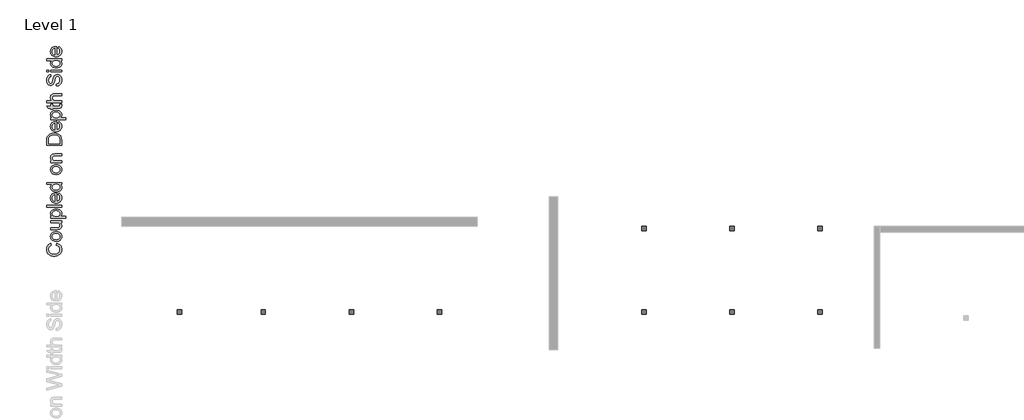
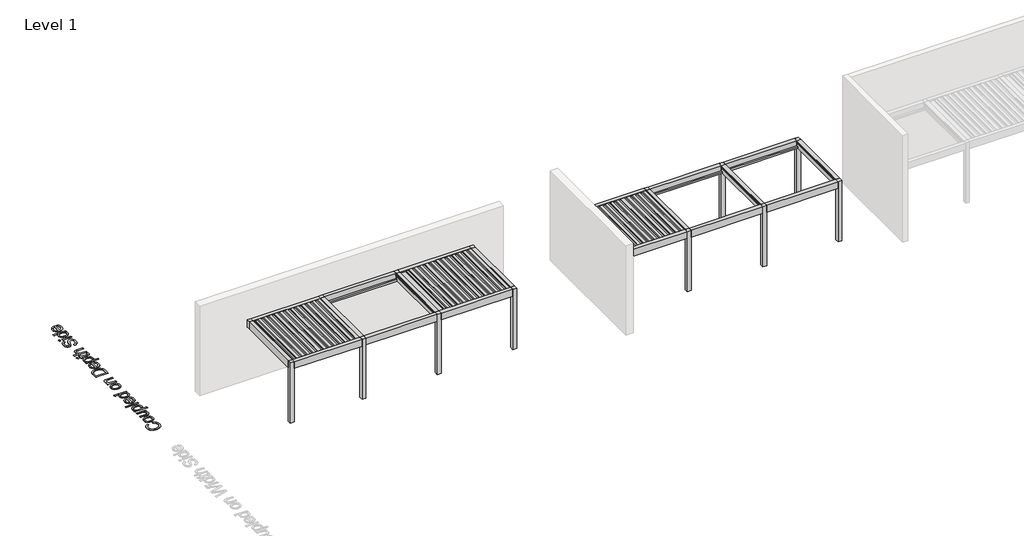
# One storey, part 63 of 80: 3 proxies.
"""IFC4 building model written with IfcOpenShell, lengths in millimetres."""

from ifc_helpers import new_model, si_unit, origin, origin_with_axes, place, context, project, spatial, polyline, outline, extrude, transform, mapped, element, save
from components import generic_models_b577dba9, generic_models_32af56f3

model = new_model("IFC4")

# Units and contexts
model_context = context("Model", 3, world=origin())
ifc_project = project(units=[si_unit("LENGTHUNIT", "METRE", prefix="MILLI")], contexts=[model_context])

# Site, building, storey
site = spatial("IfcSite", under=ifc_project)
building = spatial("IfcBuilding", under=site)
storey = spatial("IfcBuildingStorey", under=building, Name="Level 1", Elevation=0.0)

# Proxies
placement = place(None, origin())
generic_models_shape = generic_models_b577dba9(model_context)
element("IfcBuildingElementProxy", 1, Name="Renson_Amani_Patio_Cover : Renson_Amani_Patio_Cover", ObjectType="Renson_Amani_Patio_Cover : Renson_Amani_Patio_Cover", at=placement, inside=storey, context=model_context, shape_type="MappedRepresentation", body=[
    mapped(generic_models_shape, transform((177753.165057, 51509.4960358, 0.0), x_axis=(1.0, 0.0, 0.0), y_axis=(0.0, 1.0, 0.0), z_axis=(0.0, 0.0, 1.0))),
])
generic_models_2_shape = generic_models_32af56f3(model_context)
element("IfcBuildingElementProxy", 2, Name="Renson_Amani_Patio_Cover : Renson_Amani_Patio_Cover", ObjectType="Renson_Amani_Patio_Cover : Renson_Amani_Patio_Cover", at=placement, inside=storey, context=model_context, shape_type="MappedRepresentation", body=[
    mapped(generic_models_2_shape, transform((190710.3328818, 51509.4960358, 0.0), x_axis=(1.0, 0.0, 0.0), y_axis=(0.0, 1.0, 0.0), z_axis=(0.0, 0.0, 1.0))),
])
element("IfcBuildingElementProxy", 3, Name="500mm Arial", ObjectType="500mm Arial", at=placement, inside=storey, context=model_context, shape_type="SweptSolid", body=[
    extrude(outline(polyline([(172134.4472638, 52366.9601072), (172150.6340716, 52429.7453011), (172189.6793805, 52417.3216195), (172223.7966034, 52400.7745939), (172252.9857405, 52380.1042243), (172277.2467916, 52355.3105107), (172296.3191738, 52326.9529402), (172309.942304, 52295.5910002), (172318.116182, 52261.2246904), (172320.8408081, 52223.8540111), (172318.779136, 52185.5674589), (172312.59412, 52151.0287045), (172302.2857599, 52120.2377479), (172287.8540558, 52093.1945891), (172269.5136055, 52069.5275141), (172247.4790069, 52048.8648087), (172221.7502598, 52031.206473), (172192.3273644, 52016.5525068), (172160.4825792, 52005.0446982), (172127.4881628, 51996.8248348), (172093.3441151, 51991.8929168), (172058.0504362, 51990.2489442), (172020.1815833, 51992.1075147), (171984.8112623, 51997.6832261), (171951.9394732, 52006.9760786), (171921.566216, 52019.9860721), (171894.1934963, 52036.4219667), (171870.3233197, 52055.9925224), (171849.9556863, 52078.6977393), (171833.0905961, 52104.5376173), (171819.8660048, 52132.6346047), (171810.4198682, 52162.1111496), (171804.7521862, 52192.9672519), (171802.8629589, 52225.2029117), (171805.3078413, 52261.1135594), (171812.6424886, 52294.0428301), (171824.8669007, 52323.9907238), (171841.9810777, 52350.9572404), (171863.5328312, 52374.497856), (171889.0699731, 52394.1680465), (171918.5925032, 52409.9678117), (171952.1004216, 52421.8971518), (171967.060956, 52359.111958), (171942.3707092, 52349.2251294), (171921.2749761, 52337.3456066), (171903.7737566, 52323.4733897), (171889.8670507, 52307.6084787), (171879.2712828, 52289.658903), (171871.7028772, 52269.5326922), (171867.1618338, 52247.2298462), (171865.6481527, 52222.7503651), (171867.3266143, 52194.5843999), (171872.3619991, 52168.824996), (171880.7543071, 52145.4721535), (171892.5035383, 52124.5258724), (171907.0808624, 52106.2505679), (171923.9574489, 52090.9106551), (171943.1332979, 52078.5061341), (171964.6084094, 52069.0370048), (172010.563002, 52057.0348547), (172057.9278088, 52053.034138), (172115.9305368, 52057.7706187), (172166.0851154, 52071.9800608), (172187.7403358, 52082.771266), (172206.4754928, 52096.1989588), (172222.2905865, 52112.2631392), (172235.1856169, 52130.9638073), (172252.3381149, 52172.6417717), (172258.0556142, 52217.6000172), (172256.1089053, 52244.8960948), (172250.2687787, 52270.0078731), (172240.5352342, 52292.935352), (172226.908272, 52313.6785316), (172209.4492056, 52331.7469025), (172188.2193488, 52346.6499554), (172163.2187015, 52358.3876903), (172134.4472638, 52366.9601072)])), origin_with_axes(), (0.0, 0.0, 1.0), 5.0),
    extrude(outline(polyline([(172128.5611519, 52492.5304949), (172080.790142, 52495.9257392), (172039.6256796, 52506.1114719), (172005.0677647, 52523.0876931), (171977.1163972, 52546.8544029), (171959.2511278, 52570.782061), (171946.4902211, 52597.1929225), (171938.8336771, 52626.0869876), (171936.2814958, 52657.4642561), (171939.3893322, 52692.1026452), (171948.7128415, 52723.4224321), (171964.2520237, 52751.4236169), (171986.0068788, 52776.1061995), (172013.2416427, 52796.2515709), (172045.2205516, 52810.6411218), (172081.9436053, 52819.2748524), (172123.410804, 52822.1527626), (172186.8397913, 52817.0637283), (172212.8751067, 52810.7024355), (172235.1243032, 52801.7966255), (172254.3423053, 52790.4574294), (172271.2840376, 52776.7959783), (172285.9495001, 52760.812272), (172298.3386927, 52742.5063106), (172315.2152792, 52701.7787081), (172320.8408081, 52657.4642561), (172317.7444679, 52622.3200292), (172308.4554476, 52590.7090024), (172292.9737469, 52562.6311755), (172271.299366, 52538.0865486), (172243.8001869, 52518.1557751), (172210.8440915, 52503.9195083), (172172.4310798, 52495.3777483), (172128.5611519, 52492.5304949)]), holes=[polyline([(172128.4385246, 52555.3156888), (172158.892256, 52557.1321061), (172185.2609644, 52562.5813582), (172207.5446499, 52571.6634449), (172225.7433123, 52584.3783664), (172239.8799444, 52599.8447386), (172249.9775387, 52617.1811776), (172256.0360954, 52636.3876834), (172258.0556142, 52657.4642561), (172256.024599, 52678.4335298), (172249.9315535, 52697.5633936), (172239.7764776, 52714.8538473), (172225.5593713, 52730.3048911), (172207.1806, 52743.0198126), (172184.5405289, 52752.1018993), (172157.639158, 52757.5511514), (172126.4764873, 52759.3675687), (172096.9884461, 52757.5396551), (172071.3095164, 52752.0559141), (172049.4396982, 52742.9163458), (172031.3789915, 52730.1209501), (172017.2423594, 52714.6124248), (172007.1447651, 52697.3334673), (172001.0862085, 52678.2840777), (171999.0666896, 52657.4642561), (172001.0785443, 52636.3876834), (172007.1141083, 52617.1811776), (172017.1733816, 52599.8447386), (172031.2563642, 52584.3783664), (172049.4013772, 52571.6634449), (172071.6467416, 52562.5813582), (172097.9924574, 52557.1321061), (172128.4385246, 52555.3156888)])]), origin_with_axes(), (0.0, 0.0, 1.0), 5.0),
    extrude(outline(polyline([(172312.9926588, 53128.2305826), (172249.5943283, 53128.2305826), (172280.7646632, 53105.5138694), (172303.0291881, 53079.0570226), (172316.3879031, 53048.8600421), (172320.8408081, 53014.9229281), (172317.7138111, 52984.3427372), (172308.3328202, 52955.8778678), (172294.2306771, 52931.996195), (172276.9402233, 52915.1655937), (172255.9402927, 52903.8378939), (172230.7097192, 52896.4649256), (172172.3391093, 52892.7861057), (171944.129645, 52892.7861057), (171944.129645, 52955.5712995), (172142.7859224, 52955.5712995), (172206.7973896, 52959.3727468), (172228.1498737, 52968.5238114), (172244.3826667, 52984.2047815), (172254.6373773, 53005.3733246), (172258.0556142, 53030.9871085), (172254.5607353, 53058.0724204), (172244.0760984, 53083.4102928), (172227.5673939, 53104.3029245), (172206.0003119, 53118.052514), (172176.4624534, 53125.6860654), (172136.0414192, 53128.2305826), (171944.129645, 53128.2305826), (171944.129645, 53191.0157764), (172312.9926588, 53191.0157764), (172312.9926588, 53128.2305826)])), origin_with_axes(), (0.0, 0.0, 1.0), 5.0),
    extrude(outline(polyline([(172454.259345, 53277.345418), (171944.129645, 53277.345418), (171944.129645, 53340.1306118), (172005.6885655, 53340.1306118), (171975.3229725, 53360.6093762), (171953.6332632, 53383.5406872), (171940.6194376, 53410.2734455), (171936.2814958, 53442.1565518), (171937.799009, 53464.0531947), (171942.3515487, 53484.6162654), (171949.9391148, 53503.8457639), (171960.5617075, 53521.7416901), (171973.943415, 53537.9131695), (171989.8083261, 53551.9693274), (172028.9877586, 53573.7356787), (172075.2489195, 53586.8874601), (172125.7407233, 53591.2713872), (172179.4361662, 53586.3203087), (172227.460095, 53571.4670731), (172248.735937, 53560.4459417), (172267.3752914, 53547.1868614), (172283.3781582, 53531.6898324), (172296.7445374, 53513.9548545), (172314.8167404, 53475.2506029), (172320.8408081, 53434.5536572), (172316.8094345, 53405.690249), (172304.7153139, 53379.9231809), (172286.4591699, 53357.8655896), (172263.9417261, 53340.1306118), (172454.259345, 53340.1306118), (172454.259345, 53277.345418)]), holes=[polyline([(172131.5042079, 53340.1306118), (172161.762502, 53341.8282339), (172187.7901531, 53346.9211003), (172209.5871614, 53355.4092109), (172227.1535266, 53367.2925658), (172240.6731899, 53381.5978104), (172250.3300923, 53397.3515905), (172256.1242337, 53414.5539058), (172258.0556142, 53433.2047566), (172256.0552559, 53452.1238546), (172250.0541808, 53469.6404025), (172240.0523891, 53485.7544003), (172226.0498806, 53500.465848), (172207.8473861, 53512.7247491), (172185.245636, 53521.481107), (172158.2446304, 53526.7349217), (172126.8443693, 53528.4861933), (172096.8466583, 53526.7770749), (172070.8649923, 53521.6497196), (172048.8993715, 53513.1041274), (172030.9497959, 53501.1402984), (172017.0009369, 53486.8005648), (172007.0374662, 53471.1272589), (172001.0593838, 53454.1203808), (171999.0666896, 53435.7799305), (172001.1858432, 53417.4969618), (172007.5433039, 53400.2946464), (172018.1390718, 53384.1729844), (172032.9731468, 53369.1319758), (172051.8462596, 53356.443879), (172074.5591407, 53347.3809528), (172101.1117901, 53341.943197), (172131.5042079, 53340.1306118)])]), origin_with_axes(), (0.0, 0.0, 1.0), 5.0),
    extrude(outline(polyline([(172312.9926588, 53661.9047302), (171810.7111081, 53661.9047302), (171810.7111081, 53724.6899241), (172312.9926588, 53724.6899241), (172312.9926588, 53661.9047302)])), origin_with_axes(), (0.0, 0.0, 1.0), 5.0),
    extrude(outline(polyline([(172203.1185696, 54077.1208755), (172210.9667188, 54138.679796), (172235.6224767, 54129.2413236), (172257.3505071, 54116.4995774), (172276.1508099, 54100.4545574), (172292.0233851, 54081.1062638), (172304.6310077, 54058.6539657), (172313.6364523, 54033.2969328), (172319.0397191, 54005.0351649), (172320.8408081, 53973.8686622), (172317.7329716, 53934.9114917), (172308.4094623, 53900.2002926), (172292.8702801, 53869.7350649), (172271.115425, 53843.5158085), (172243.7503696, 53822.4315717), (172211.3805861, 53807.3714025), (172174.0060746, 53798.335301), (172131.6268352, 53795.3232672), (172087.8105567, 53798.3659578), (172049.1906115, 53807.4940298), (172015.7669994, 53822.7074832), (171987.5397204, 53844.0063179), (171965.1142471, 53870.1565963), (171949.0960519, 53899.9243811), (171939.4851348, 53933.3096722), (171936.2814958, 53970.3124695), (171939.4774706, 54006.1234825), (171949.0653951, 54038.5085944), (171965.0452693, 54067.4678052), (171987.4170931, 54093.0011149), (172015.5830584, 54113.8439292), (172048.9453568, 54128.7316537), (172087.5039884, 54137.6642884), (172131.2589532, 54140.6418333), (172148.181525, 54140.2739513), (172148.181525, 53858.108461), (172173.2358217, 53861.7451278), (172195.1784499, 53868.9763083), (172214.0094095, 53879.8020024), (172229.7287006, 53894.2222102), (172242.1217253, 53911.439854), (172250.9738858, 53930.6578561), (172256.2851821, 53951.8762166), (172258.0556142, 53975.0949355), (172254.7753331, 54008.5108834), (172244.9344897, 54036.653856), (172227.9199474, 54059.5238534), (172203.1185696, 54077.1208755)]), holes=[polyline([(172085.3963312, 53858.108461), (172085.3963312, 54077.8566395), (172052.2256379, 54069.3646967), (172028.4972492, 54052.7180365), (172015.6213794, 54035.5961953), (172006.4243295, 54016.1137779), (172000.9060996, 53994.2707845), (171999.0666896, 53970.0672149), (172004.9374731, 53927.745457), (172012.2759525, 53909.3321967), (172022.5498236, 53892.7506822), (172035.2839056, 53878.8363122), (172050.0030175, 53868.4244853), (172066.7071594, 53861.5152016), (172085.3963312, 53858.108461)])]), origin_with_axes(), (0.0, 0.0, 1.0), 5.0),
    extrude(outline(polyline([(172312.9926588, 54431.0233548), (172253.7636576, 54431.0233548), (172283.1099109, 54412.2383805), (172304.0715205, 54389.4833462), (172316.6484862, 54362.7582521), (172320.8408081, 54332.0630981), (172314.7707551, 54291.4734513), (172296.5605964, 54254.3173698), (172267.4825903, 54222.8634592), (172228.8089956, 54199.3803252), (172182.1033106, 54184.7570159), (172128.9290339, 54179.8825795), (172076.4138791, 54184.3738055), (172028.9877586, 54197.8474836), (172007.8575365, 54207.94891), (171989.3484736, 54220.2882853), (171973.4605699, 54234.8656093), (171960.1938255, 54251.6808822), (171942.2595782, 54289.6493698), (171936.2814958, 54331.8178435), (171940.558124, 54362.5359901), (171953.3880085, 54389.697944), (171973.0543669, 54412.7212256), (171997.8404163, 54431.0233548), (171810.7111081, 54431.0233548), (171810.7111081, 54493.8085487), (172312.9926588, 54493.8085487), (172312.9926588, 54431.0233548)]), holes=[polyline([(172128.6837793, 54242.6677733), (172159.1298465, 54244.4382054), (172185.4755623, 54249.7495017), (172207.7209267, 54258.6016622), (172225.8659396, 54270.9946869), (172239.9489223, 54285.794273), (172250.0081956, 54301.8661177), (172256.0437596, 54319.2102209), (172258.0556142, 54337.8265827), (172256.1357301, 54356.5310829), (172250.3760776, 54373.7717193), (172240.7766568, 54389.548492), (172227.3374676, 54403.8614009), (172209.9512112, 54415.7447557), (172188.5105887, 54424.2328663), (172163.0156, 54429.3257327), (172133.4662452, 54431.0233548), (172101.069637, 54429.2950759), (172073.2868821, 54424.110239), (172050.1179807, 54415.4688442), (172031.5629325, 54403.3708915), (172017.3458263, 54388.7437501), (172007.1907503, 54372.5147892), (172001.0977048, 54354.6840087), (171999.0666896, 54335.2514088), (172001.0172306, 54316.267165), (172006.8688536, 54298.9230617), (172016.6215586, 54283.2190991), (172030.2753455, 54269.155277), (172048.1291186, 54257.5669941), (172070.4817819, 54249.2896492), (172097.3333355, 54244.3232423), (172128.6837793, 54242.6677733)])]), origin_with_axes(), (0.0, 0.0, 1.0), 5.0),
    extrude(outline(polyline([(172128.5611519, 54768.4937717), (172080.790142, 54771.889016), (172039.6256796, 54782.0747487), (172005.0677647, 54799.05097), (171977.1163972, 54822.8176797), (171959.2511278, 54846.7453378), (171946.4902211, 54873.1561994), (171938.8336771, 54902.0502644), (171936.2814958, 54933.4275329), (171939.3893322, 54968.065922), (171948.7128415, 54999.385709), (171964.2520237, 55027.3868937), (171986.0068788, 55052.0694764), (172013.2416427, 55072.2148477), (172045.2205516, 55086.6043987), (172081.9436053, 55095.2381292), (172123.410804, 55098.1160394), (172186.8397913, 55093.0270052), (172212.8751067, 55086.6657123), (172235.1243032, 55077.7599024), (172254.3423053, 55066.4207063), (172271.2840376, 55052.7592551), (172285.9495001, 55036.7755488), (172298.3386927, 55018.4695875), (172315.2152792, 54977.7419849), (172320.8408081, 54933.4275329), (172317.7444679, 54898.2833061), (172308.4554476, 54866.6722792), (172292.9737469, 54838.5944523), (172271.299366, 54814.0498255), (172243.8001869, 54794.119052), (172210.8440915, 54779.8827852), (172172.4310798, 54771.3410251), (172128.5611519, 54768.4937717)]), holes=[polyline([(172128.4385246, 54831.2789656), (172158.892256, 54833.0953829), (172185.2609644, 54838.544635), (172207.5446499, 54847.6267217), (172225.7433123, 54860.3416432), (172239.8799444, 54875.8080154), (172249.9775387, 54893.1444544), (172256.0360954, 54912.3509603), (172258.0556142, 54933.4275329), (172256.024599, 54954.3968066), (172249.9315535, 54973.5266704), (172239.7764776, 54990.8171242), (172225.5593713, 55006.268168), (172207.1806, 55018.9830894), (172184.5405289, 55028.0651762), (172157.639158, 55033.5144282), (172126.4764873, 55035.3308456), (172096.9884461, 55033.5029319), (172071.3095164, 55028.0191909), (172049.4396982, 55018.8796226), (172031.3789915, 55006.084227), (172017.2423594, 54990.5757016), (172007.1447651, 54973.2967441), (172001.0862085, 54954.2473546), (171999.0666896, 54933.4275329), (172001.0785443, 54912.3509603), (172007.1141083, 54893.1444544), (172017.1733816, 54875.8080154), (172031.2563642, 54860.3416432), (172049.4013772, 54847.6267217), (172071.6467416, 54838.544635), (172097.9924574, 54833.0953829), (172128.4385246, 54831.2789656)])]), origin_with_axes(), (0.0, 0.0, 1.0), 5.0),
    extrude(outline(polyline([(172312.9926588, 55168.7493825), (171944.129645, 55168.7493825), (171944.129645, 55231.5345763), (171995.6331243, 55231.5345763), (171969.6667868, 55253.346913), (171951.1194029, 55279.5431767), (171939.9909726, 55310.1233676), (171936.2814958, 55345.0874855), (171939.270537, 55376.0355584), (171948.2376606, 55404.3778004), (171962.0638923, 55428.0142186), (171979.6302575, 55444.8448199), (172000.8907712, 55456.2644901), (172025.7994479, 55463.6681153), (172086.4999771, 55466.9790532), (172312.9926588, 55466.9790532), (172312.9926588, 55404.1938594), (172094.961263, 55404.1938594), (172062.495677, 55402.3851063), (172039.4110818, 55396.9588468), (172022.8717204, 55386.9493909), (172010.0418358, 55371.3910482), (172001.8104762, 55351.4487783), (171999.0666896, 55328.2875411), (172000.6071955, 55309.2228231), (172005.228713, 55291.51467), (172012.9312423, 55275.1630817), (172023.7147833, 55260.1680583), (172038.8056093, 55247.6409099), (172059.4299937, 55238.6929468), (172085.5879364, 55233.324169), (172117.2794374, 55231.5345763), (172312.9926588, 55231.5345763), (172312.9926588, 55168.7493825)])), origin_with_axes(), (0.0, 0.0, 1.0), 5.0),
    extrude(outline(polyline([(172312.9926588, 55757.3605748), (171810.7111081, 55757.3605748), (171810.7111081, 55930.6329945), (171812.5198612, 55982.4123853), (171817.9461207, 56020.273574), (171831.8949796, 56060.3113978), (171853.8759289, 56094.0952277), (171871.840833, 56112.7115895), (171892.1356564, 56128.8294194), (171914.7603991, 56142.4487174), (171939.7150611, 56153.5694836), (171995.694438, 56168.3767339), (172059.1540822, 56173.312484), (172113.0641229, 56169.9708892), (172160.5055718, 56159.9461048), (172200.8959492, 56144.679002), (172233.6527752, 56125.6104519), (172259.5118138, 56103.6601596), (172279.2088289, 56079.7478299), (172293.8168098, 56052.294636), (172304.4087456, 56019.721751), (172310.8466805, 55981.9678612), (172312.9926588, 55938.9716531), (172312.9926588, 55757.3605748)]), holes=[polyline([(172250.207465, 55820.1457686), (172250.207465, 55931.2461312), (172247.9388594, 55977.2007237), (172241.1330424, 56012.0575428), (172230.1885531, 56038.3611054), (172215.5039301, 56058.6559288), (172188.3266477, 56080.4682655), (172153.1479319, 56096.8543427), (172109.8144986, 56107.1090533), (172058.1730635, 56110.5272901), (172021.7220892, 56108.8526606), (171989.7470124, 56103.8287721), (171962.2478333, 56095.4556247), (171939.2245517, 56083.7332182), (171920.1560017, 56069.6119145), (171904.5210169, 56054.0420755), (171892.3195973, 56037.0237011), (171883.5517431, 56018.5567913), (171876.0101622, 55982.4430422), (171873.4963019, 55929.5293485), (171873.4963019, 55820.1457686), (172250.207465, 55820.1457686)])]), origin_with_axes(), (0.0, 0.0, 1.0), 5.0),
    extrude(outline(polyline([(172203.1185696, 56510.0471369), (172210.9667188, 56571.6060574), (172235.6224767, 56562.167585), (172257.3505071, 56549.4258388), (172276.1508099, 56533.3808189), (172292.0233851, 56514.0325252), (172304.6310077, 56491.5802272), (172313.6364523, 56466.2231942), (172319.0397191, 56437.9614264), (172320.8408081, 56406.7949236), (172317.7329716, 56367.8377531), (172308.4094623, 56333.1265541), (172292.8702801, 56302.6613263), (172271.115425, 56276.44207), (172243.7503696, 56255.3578331), (172211.3805861, 56240.2976639), (172174.0060746, 56231.2615624), (172131.6268352, 56228.2495286), (172087.8105567, 56231.2922193), (172049.1906115, 56240.4202913), (172015.7669994, 56255.6337446), (171987.5397204, 56276.9325793), (171965.1142471, 56303.0828578), (171949.0960519, 56332.8506426), (171939.4851348, 56366.2359336), (171936.2814958, 56403.238731), (171939.4774706, 56439.0497439), (171949.0653951, 56471.4348558), (171965.0452693, 56500.3940666), (171987.4170931, 56525.9273764), (172015.5830584, 56546.7701907), (172048.9453568, 56561.6579151), (172087.5039884, 56570.5905498), (172131.2589532, 56573.5680947), (172148.181525, 56573.2002127), (172148.181525, 56291.0347224), (172173.2358217, 56294.6713893), (172195.1784499, 56301.9025697), (172214.0094095, 56312.7282638), (172229.7287006, 56327.1484716), (172242.1217253, 56344.3661154), (172250.9738858, 56363.5841176), (172256.2851821, 56384.8024781), (172258.0556142, 56408.0211969), (172254.7753331, 56441.4371448), (172244.9344897, 56469.5801174), (172227.9199474, 56492.4501148), (172203.1185696, 56510.0471369)]), holes=[polyline([(172085.3963312, 56291.0347224), (172085.3963312, 56510.7829009), (172052.2256379, 56502.2909582), (172028.4972492, 56485.6442979), (172015.6213794, 56468.5224567), (172006.4243295, 56449.0400394), (172000.9060996, 56427.1970459), (171999.0666896, 56402.9934763), (172004.9374731, 56360.6717184), (172012.2759525, 56342.2584582), (172022.5498236, 56325.6769437), (172035.2839056, 56311.7625736), (172050.0030175, 56301.3507467), (172066.7071594, 56294.441463), (172085.3963312, 56291.0347224)])]), origin_with_axes(), (0.0, 0.0, 1.0), 5.0),
    extrude(outline(polyline([(172454.259345, 56636.3532886), (171944.129645, 56636.3532886), (171944.129645, 56699.1384824), (172005.6885655, 56699.1384824), (171975.3229725, 56719.6172468), (171953.6332632, 56742.5485579), (171940.6194376, 56769.2813162), (171936.2814958, 56801.1644224), (171937.799009, 56823.0610653), (171942.3515487, 56843.624136), (171949.9391148, 56862.8536345), (171960.5617075, 56880.7495607), (171973.943415, 56896.9210401), (171989.8083261, 56910.977198), (172028.9877586, 56932.7435494), (172075.2489195, 56945.8953307), (172125.7407233, 56950.2792578), (172179.4361662, 56945.3281793), (172227.460095, 56930.4749437), (172248.735937, 56919.4538123), (172267.3752914, 56906.194732), (172283.3781582, 56890.697703), (172296.7445374, 56872.9627251), (172314.8167404, 56834.2584736), (172320.8408081, 56793.5615279), (172316.8094345, 56764.6981197), (172304.7153139, 56738.9310516), (172286.4591699, 56716.8734603), (172263.9417261, 56699.1384824), (172454.259345, 56699.1384824), (172454.259345, 56636.3532886)]), holes=[polyline([(172131.5042079, 56699.1384824), (172161.762502, 56700.8361046), (172187.7901531, 56705.9289709), (172209.5871614, 56714.4170815), (172227.1535266, 56726.3004364), (172240.6731899, 56740.6056811), (172250.3300923, 56756.3594611), (172256.1242337, 56773.5617765), (172258.0556142, 56792.2126272), (172256.0552559, 56811.1317252), (172250.0541808, 56828.6482731), (172240.0523891, 56844.762271), (172226.0498806, 56859.4737187), (172207.8473861, 56871.7326197), (172185.245636, 56880.4889776), (172158.2446304, 56885.7427924), (172126.8443693, 56887.494064), (172096.8466583, 56885.7849455), (172070.8649923, 56880.6575902), (172048.8993715, 56872.111998), (172030.9497959, 56860.148169), (172017.0009369, 56845.8084354), (172007.0374662, 56830.1351295), (172001.0593838, 56813.1282515), (171999.0666896, 56794.7878012), (172001.1858432, 56776.5048324), (172007.5433039, 56759.3025171), (172018.1390718, 56743.180855), (172032.9731468, 56728.1398464), (172051.8462596, 56715.4517497), (172074.5591407, 56706.3888234), (172101.1117901, 56700.9510677), (172131.5042079, 56699.1384824)])]), origin_with_axes(), (0.0, 0.0, 1.0), 5.0),
    extrude(outline(polyline([(172260.6307882, 57154.3311378), (172314.8320688, 57162.179287), (172320.8408081, 57115.213019), (172318.2349773, 57085.0773522), (172310.4174849, 57062.6058937), (172298.3693495, 57046.7256542), (172283.0715899, 57036.3636447), (172256.7986841, 57030.6614737), (172211.8251102, 57028.7607501), (172006.9148388, 57028.7607501), (172006.9148388, 56981.6718547), (171944.129645, 56981.6718547), (171944.129645, 57028.7607501), (171854.4890655, 57028.7607501), (171817.5782387, 57091.5459439), (171944.129645, 57091.5459439), (171944.129645, 57154.3311378), (172006.9148388, 57154.3311378), (172006.9148388, 57091.5459439), (172209.9857002, 57091.5459439), (172242.3593158, 57094.8568819), (172253.8249713, 57105.5867734), (172258.0556142, 57126.9852428), (172260.6307882, 57154.3311378)])), origin_with_axes(), (0.0, 0.0, 1.0), 5.0),
    extrude(outline(polyline([(172312.9926588, 57217.1163316), (171810.7111081, 57217.1163316), (171810.7111081, 57279.9015255), (171995.3878697, 57279.9015255), (171969.5288311, 57302.9631281), (171951.0580892, 57328.8604877), (171939.9756441, 57357.5936043), (171936.2814958, 57389.162478), (171940.3128693, 57427.0849804), (171952.4069899, 57459.6731938), (171971.6134957, 57485.332963), (171996.982025, 57502.4701326), (172031.838844, 57512.1270349), (172079.5102192, 57515.3460024), (172312.9926588, 57515.3460024), (172312.9926588, 57452.5608085), (172086.0094678, 57452.5608085), (172046.707408, 57447.5637448), (172031.7008883, 57441.3174151), (172019.7907087, 57432.5725535), (172010.7239503, 57421.5360936), (172004.2476944, 57408.4149691), (171999.0666896, 57375.9187262), (172002.5615686, 57349.3852373), (172013.0462054, 57324.4765606), (172029.5089247, 57303.844512), (172050.9380509, 57290.1409077), (172079.4182487, 57282.461371), (172117.0341827, 57279.9015255), (172312.9926588, 57279.9015255), (172312.9926588, 57217.1163316)])), origin_with_axes(), (0.0, 0.0, 1.0), 5.0),
    extrude(outline(polyline([(172140.3333758, 57782.1830762), (172140.3333758, 57844.9682701), (172175.1748664, 57852.1726258), (172203.1798833, 57865.2017798), (172225.4060871, 57885.52726), (172242.9111388, 57914.6205945), (172254.2694954, 57950.1825207), (172258.0556142, 57989.9137762), (172255.1892003, 58024.8932225), (172246.5899587, 58055.5193986), (172232.9783249, 58080.3361049), (172215.0747345, 58097.8871418), (172194.519328, 58108.3257934), (172172.952246, 58111.8053439), (172151.936987, 58109.1995131), (172133.7728135, 58101.3820207), (172118.2757845, 58085.5017813), (172105.2619589, 58058.7077093), (172081.2883155, 57967.2890335), (172065.4234045, 57907.278283), (172050.3249143, 57868.8805998), (172029.2023564, 57837.6259586), (172003.6039009, 57815.4763968), (171974.0813708, 57802.2786302), (171941.186589, 57797.8793747), (171904.4137179, 57803.3209625), (171870.1240503, 57819.6457261), (171854.5963644, 57831.7819998), (171841.0613727, 57846.4244696), (171819.9694716, 57883.2279976), (171807.139587, 57927.4044938), (171802.8629589, 57976.3021423), (171807.3388565, 58029.2771497), (171820.7665493, 58075.630281), (171842.8701258, 58113.7060675), (171857.0719037, 58129.0191556), (171873.3736746, 58141.8490402), (171910.3764719, 58159.6606601), (171951.9777942, 58166.7423885), (171951.9777942, 58103.9571947), (171931.9435539, 58099.7572086), (171914.5151444, 58092.4302255), (171899.6925657, 58081.9762455), (171887.4758177, 58068.3952685), (171877.9262143, 58051.4343757), (171871.105069, 58030.8406481), (171865.6481527, 57978.754689), (171871.0437553, 57925.4424565), (171877.7882585, 57905.0633268), (171887.2305631, 57888.8688548), (171898.5812555, 57876.5294796), (171911.0509223, 57867.7156401), (171924.6395635, 57862.4273364), (171939.3471791, 57860.6645685), (171963.4741066, 57865.6616323), (171982.8798818, 57880.6528236), (171991.5097803, 57894.4177416), (172000.2316493, 57916.0921225), (172017.9512987, 57983.1692729), (172034.7819, 58052.3924017), (172049.466523, 58094.2696355), (172072.2445498, 58130.0614879), (172100.3568656, 58155.0314783), (172133.496902, 58169.7007729), (172171.3580907, 58174.5905377), (172210.0623423, 58168.9650089), (172246.4673314, 58152.0884224), (172277.7986146, 58124.6505569), (172301.2817487, 58087.3411912), (172315.9510432, 58042.4749162), (172320.8408081, 57992.3663228), (172315.5678328, 57930.8533875), (172308.9766137, 57904.1781108), (172299.748907, 57880.2236279), (172287.8693842, 57858.8443191), (172273.322717, 57839.8945642), (172256.1089053, 57823.3743634), (172236.2279492, 57809.2837165), (172214.323642, 57797.9330241), (172191.0397774, 57789.6326866), (172166.3763553, 57784.382704), (172140.3333758, 57782.1830762)])), origin_with_axes(), (0.0, 0.0, 1.0), 5.0),
    extrude(outline(polyline([(171873.4963019, 58260.9201793), (171810.7111081, 58260.9201793), (171810.7111081, 58323.7053731), (171873.4963019, 58323.7053731), (171873.4963019, 58260.9201793)])), origin_with_axes(), (0.0, 0.0, 1.0), 5.0),
    extrude(outline(polyline([(172312.9926588, 58260.9201793), (171944.129645, 58260.9201793), (171944.129645, 58323.7053731), (172312.9926588, 58323.7053731), (172312.9926588, 58260.9201793)])), origin_with_axes(), (0.0, 0.0, 1.0), 5.0),
    extrude(outline(polyline([(172312.9926588, 58645.4794916), (172253.7636576, 58645.4794916), (172283.1099109, 58626.6945172), (172304.0715205, 58603.939483), (172316.6484862, 58577.2143888), (172320.8408081, 58546.5192349), (172314.7707551, 58505.9295881), (172296.5605964, 58468.7735066), (172267.4825903, 58437.319596), (172228.8089956, 58413.8364619), (172182.1033106, 58399.2131526), (172128.9290339, 58394.3387162), (172076.4138791, 58398.8299422), (172028.9877586, 58412.3036203), (172007.8575365, 58422.4050467), (171989.3484736, 58434.744422), (171973.4605699, 58449.3217461), (171960.1938255, 58466.1370189), (171942.2595782, 58504.1055065), (171936.2814958, 58546.2739802), (171940.558124, 58576.9921268), (171953.3880085, 58604.1540808), (171973.0543669, 58627.1773623), (171997.8404163, 58645.4794916), (171810.7111081, 58645.4794916), (171810.7111081, 58708.2646854), (172312.9926588, 58708.2646854), (172312.9926588, 58645.4794916)]), holes=[polyline([(172128.6837793, 58457.12391), (172159.1298465, 58458.8943421), (172185.4755623, 58464.2056385), (172207.7209267, 58473.057799), (172225.8659396, 58485.4508237), (172239.9489223, 58500.2504098), (172250.0081956, 58516.3222544), (172256.0437596, 58533.6663577), (172258.0556142, 58552.2827195), (172256.1357301, 58570.9872197), (172250.3760776, 58588.2278561), (172240.7766568, 58604.0046287), (172227.3374676, 58618.3175376), (172209.9512112, 58630.2008925), (172188.5105887, 58638.6890031), (172163.0156, 58643.7818695), (172133.4662452, 58645.4794916), (172101.069637, 58643.7512126), (172073.2868821, 58638.5663757), (172050.1179807, 58629.924981), (172031.5629325, 58617.8270283), (172017.3458263, 58603.1998869), (172007.1907503, 58586.9709259), (172001.0977048, 58569.1401455), (171999.0666896, 58549.7075455), (172001.0172306, 58530.7233017), (172006.8688536, 58513.3791985), (172016.6215586, 58497.6752358), (172030.2753455, 58483.6114137), (172048.1291186, 58472.0231308), (172070.4817819, 58463.745786), (172097.3333355, 58458.779379), (172128.6837793, 58457.12391)])]), origin_with_axes(), (0.0, 0.0, 1.0), 5.0),
    extrude(outline(polyline([(172203.1185696, 59060.6956368), (172210.9667188, 59122.2545573), (172235.6224767, 59112.8160849), (172257.3505071, 59100.0743387), (172276.1508099, 59084.0293188), (172292.0233851, 59064.6810251), (172304.6310077, 59042.2287271), (172313.6364523, 59016.8716941), (172319.0397191, 58988.6099263), (172320.8408081, 58957.4434235), (172317.7329716, 58918.486253), (172308.4094623, 58883.775054), (172292.8702801, 58853.3098262), (172271.115425, 58827.0905699), (172243.7503696, 58806.006333), (172211.3805861, 58790.9461638), (172174.0060746, 58781.9100623), (172131.6268352, 58778.8980285), (172087.8105567, 58781.9407192), (172049.1906115, 58791.0687912), (172015.7669994, 58806.2822445), (171987.5397204, 58827.5810792), (171965.1142471, 58853.7313577), (171949.0960519, 58883.4991425), (171939.4851348, 58916.8844335), (171936.2814958, 58953.8872309), (171939.4774706, 58989.6982438), (171949.0653951, 59022.0833557), (171965.0452693, 59051.0425665), (171987.4170931, 59076.5758763), (172015.5830584, 59097.4186905), (172048.9453568, 59112.306415), (172087.5039884, 59121.2390497), (172131.2589532, 59124.2165946), (172148.181525, 59123.8487126), (172148.181525, 58841.6832223), (172173.2358217, 58845.3198891), (172195.1784499, 58852.5510696), (172214.0094095, 58863.3767637), (172229.7287006, 58877.7969715), (172242.1217253, 58895.0146153), (172250.9738858, 58914.2326175), (172256.2851821, 58935.450978), (172258.0556142, 58958.6696968), (172254.7753331, 58992.0856447), (172244.9344897, 59020.2286173), (172227.9199474, 59043.0986147), (172203.1185696, 59060.6956368)]), holes=[polyline([(172085.3963312, 58841.6832223), (172085.3963312, 59061.4314008), (172052.2256379, 59052.9394581), (172028.4972492, 59036.2927978), (172015.6213794, 59019.1709566), (172006.4243295, 58999.6885393), (172000.9060996, 58977.8455458), (171999.0666896, 58953.6419762), (172004.9374731, 58911.3202183), (172012.2759525, 58892.9069581), (172022.5498236, 58876.3254435), (172035.2839056, 58862.4110735), (172050.0030175, 58851.9992466), (172066.7071594, 58845.0899629), (172085.3963312, 58841.6832223)])]), origin_with_axes(), (0.0, 0.0, 1.0), 5.0),
])

save(model, "model.ifc")
